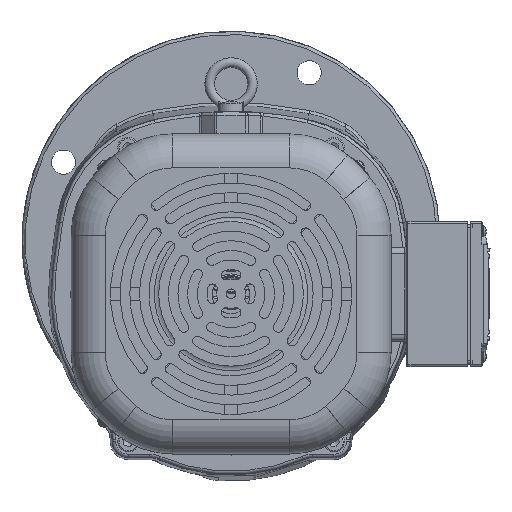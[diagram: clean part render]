
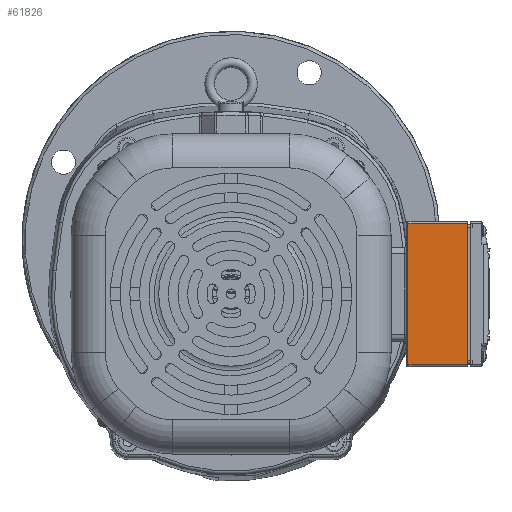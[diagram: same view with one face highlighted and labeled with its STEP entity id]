
A CAD part, top view. The second image highlights one B-rep face of the part: STEP entity #61826.
In plain terms, the highlighted planar face has unit normal (0, 0, 1).
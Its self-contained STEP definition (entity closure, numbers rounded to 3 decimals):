
#1398=PLANE('',#66344);
#3188=LINE('',#92932,#6055);
#3189=LINE('',#92934,#6056);
#3190=LINE('',#92936,#6057);
#3191=LINE('',#92937,#6058);
#6055=VECTOR('',#75270,10.);
#6056=VECTOR('',#75271,10.);
#6057=VECTOR('',#75272,10.);
#6058=VECTOR('',#75273,10.);
#9459=FACE_OUTER_BOUND('',#13295,.T.);
#13295=EDGE_LOOP('',(#41516,#41517,#41518,#41519));
#24201=VERTEX_POINT('',#92930);
#24202=VERTEX_POINT('',#92931);
#24203=VERTEX_POINT('',#92933);
#24204=VERTEX_POINT('',#92935);
#30535=EDGE_CURVE('',#24201,#24202,#3188,.T.);
#30536=EDGE_CURVE('',#24203,#24201,#3189,.T.);
#30537=EDGE_CURVE('',#24203,#24204,#3190,.T.);
#30538=EDGE_CURVE('',#24202,#24204,#3191,.T.);
#41516=ORIENTED_EDGE('',*,*,#30535,.F.);
#41517=ORIENTED_EDGE('',*,*,#30536,.F.);
#41518=ORIENTED_EDGE('',*,*,#30537,.T.);
#41519=ORIENTED_EDGE('',*,*,#30538,.F.);
#61826=ADVANCED_FACE('',(#9459),#1398,.T.);
#66344=AXIS2_PLACEMENT_3D('',#92929,#75268,#75269);
#75268=DIRECTION('center_axis',(0.,0.,
1.));
#75269=DIRECTION('ref_axis',(1.,0.,0.));
#75270=DIRECTION('',(0.,1.,0.));
#75271=DIRECTION('',(-1.,0.,0.));
#75272=DIRECTION('',(0.,1.,0.));
#75273=DIRECTION('',(1.,0.,0.));
#92929=CARTESIAN_POINT('Origin',(95.364,-62.494,309.976));
#92930=CARTESIAN_POINT('',(96.364,-61.494,309.976));
#92931=CARTESIAN_POINT('',(96.364,26.506,309.976));
#92932=CARTESIAN_POINT('',(96.364,-39.994,309.976));
#92933=CARTESIAN_POINT('',(133.364,-61.494,309.976));
#92934=CARTESIAN_POINT('',(95.364,-61.494,309.976));
#92935=CARTESIAN_POINT('',(133.364,26.506,309.976));
#92936=CARTESIAN_POINT('',(133.364,27.506,309.976));
#92937=CARTESIAN_POINT('',(95.364,26.506,309.976));
